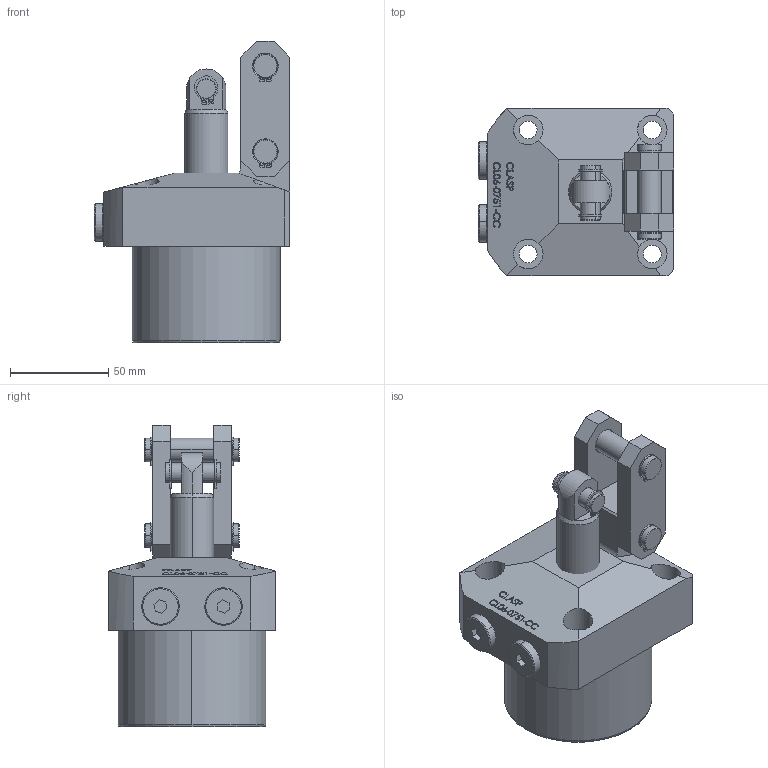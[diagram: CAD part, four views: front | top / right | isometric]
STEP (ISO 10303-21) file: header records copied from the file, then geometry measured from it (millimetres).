
FILE_DESCRIPTION (( 'STEP AP203' ), '1' );
FILE_NAME ('CL06-0750cc.STEP', '2022-07-05T17:40:42', ( '' ), ( '' ), 'SwSTEP 2.0', 'SolidWorks 2017', '' );
FILE_SCHEMA (( 'CONFIG_CONTROL_DESIGN' ));
Length unit declared in the file: millimetre
Products named in the file (8): CL06-0750 Part6 cc; CL06-0750 Part7 cc; CL06-0750 Part9 cc_IS 3075 NE- 10; CL06-0750cc; CL06-0750 Part1 cc; CL06-0750 Part3 cc; CL06-0750 Part2 cc; CL06-0750 Part5 cc
Assembly tree (15 placements, depth 2):
  CL06-0750cc
    CL06-0750 Part1 cc
    CL06-0750 Part3 cc
    CL06-0750 Part2 cc  x2
    CL06-0750 Part5 cc  x2
    CL06-0750 Part6 cc  x2
    CL06-0750 Part7 cc
    CL06-0750 Part9 cc_IS 3075 NE- 10  x6
Bounding box: 99.5 x 85 x 153 mm (x, y, z)
Volume: 526508.8 mm3; surface area: 70087 mm2
Topology: 15 solids, 15 shells, 541 faces, 1357 edges, 886 vertices
Faces by surface type: plane 230, cylinder 171, bspline 92, cone 48
Entity records: 17727 total; most frequent: CARTESIAN_POINT 8213, ORIENTED_EDGE 1862, DIRECTION 1505, EDGE_CURVE 931, VERTEX_POINT 610, LINE 533, VECTOR 533, AXIS2_PLACEMENT_3D 486
